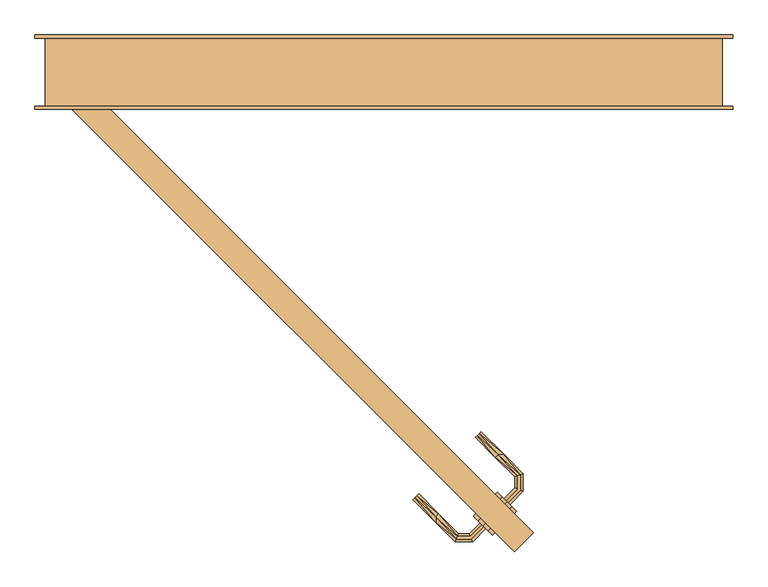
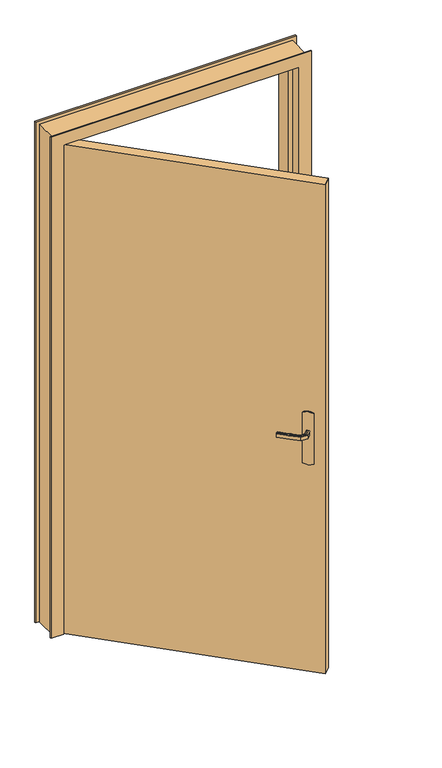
"""IFC4 building model written with IfcOpenShell, lengths in millimetres: door geometry, PP ISOTHERME  (0.93m x 2.04m)."""

from ifc_helpers import new_model, si_unit, frame, origin, origin_with_axes, place, context, project, spatial, polyline, outline, extrude, faceted_brep, source, transform, mapped, element, save


def door_0ba38a8d(model_context):
    return source(origin(), model_context, "Body", "SolidModel", [
        extrude(outline(polyline([(0.0, 0.0), (206.2910989, 39.2935427), (212.0216555, 30.5643917), (215.2976776, 20.6495021), (215.8959097, 10.2245573), (213.7755833, 1e-07), (7.4844843, -39.2935426), (1.7539277, -30.5643917), (-1.5220943, -20.6495021), (-2.1203265, -10.2245572), (0.0, 0.0)])), frame((762.6093065, -601.040764, 870.0), z_axis=(0.7071067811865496, 0.7071067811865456, 0.0), x_axis=(-0.1323082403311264, 0.13230824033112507, 0.9823385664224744)), (0.0, 0.0, 1.0), 5.0),
        faceted_brep([(750.5706024, -581.9309921, 992.2195592), (753.4348072, -584.7951969, 992.2195592), (756.2453455, -587.6057352, 993.0), (756.2453455, -587.6057352, 1007.0), (753.4348072, -584.7951969, 1007.7804408), (750.5706024, -581.9309921, 1007.7804408), (747.7600641, -579.1204538, 1007.0), (747.7600641, -579.1204538, 993.0), (763.6595047, -563.2210132, 1007.0), (763.6595047, -563.2210132, 993.0), (767.634206, -564.8673884, 1007.7804408), (771.6848033, -566.5452008, 1007.7804408), (771.6848033, -543.654185, 1007.7804408), (767.634206, -545.3319973, 1007.7804408), (775.6595047, -568.191576, 1007.0), (775.6595047, -568.191576, 993.0), (771.6848033, -566.5452008, 992.2195592), (767.634206, -564.8673884, 992.2195592), (767.634206, -545.3319973, 992.2195592), (771.6848033, -543.654185, 992.2195592), (763.6595047, -546.9783725, 1007.0), (763.6595047, -546.9783725, 993.0), (775.6595047, -542.0078098, 1007.0), (775.6595047, -542.0078098, 993.0), (708.0909519, -485.7887432, 1007.7804408), (710.9551568, -482.9245384, 1007.7804408), (713.765695, -480.1140001, 1007.0), (713.765695, -480.1140001, 993.0), (710.9551568, -482.9245384, 992.2195592), (708.0909519, -485.7887432, 992.2195592), (705.2804137, -488.5992815, 993.0), (705.2804137, -488.5992815, 1007.0), (734.4699592, -517.788827, 1007.0), (734.4699676, -517.7888354, 993.0), (739.2946814, -514.1282679, 1007.8786868), (747.4243864, -513.7726915, 1007.0), (747.4243875, -513.7726926, 993.0), (739.2946812, -514.1282677, 992.1213132)], [[[0, 1, 2, 3, 4, 5, 6, 7]], [[8, 9, 7, 6]], [[5, 10, 8, 6]], [[5, 4, 11, 12, 13, 10]], [[3, 14, 11, 4]], [[14, 3, 2, 15]], [[2, 1, 16, 15]], [[1, 0, 17, 18, 19, 16]], [[0, 7, 9, 17]], [[20, 21, 9, 8]], [[8, 10, 13, 20]], [[14, 22, 12, 11]], [[23, 22, 14, 15]], [[15, 16, 19, 23]], [[17, 9, 21, 18]], [[24, 25, 26, 27, 28, 29, 30, 31]], [[21, 20, 32, 31, 30, 33]], [[34, 24, 32]], [[25, 34, 35]], [[13, 32, 20]], [[24, 31, 32]], [[25, 35, 26]], [[35, 12, 22]], [[34, 12, 35]], [[34, 13, 12]], [[34, 32, 13]], [[24, 34, 25]], [[22, 23, 36, 27, 26, 35]], [[37, 28, 36]], [[36, 28, 27]], [[36, 23, 19]], [[18, 33, 37]], [[33, 18, 21]], [[30, 29, 33]], [[37, 29, 28]], [[37, 33, 29]], [[37, 36, 19]], [[18, 37, 19]]]),
        faceted_brep([(715.2152633, -617.2863311, 1007.7804408), (718.0794681, -620.150536, 1007.7804408), (720.8900064, -622.9610742, 1007.0), (720.8900064, -622.9610742, 993.0), (718.0794681, -620.150536, 992.2195592), (715.2152633, -617.2863311, 992.2195592), (712.404725, -614.4757929, 993.0), (712.404725, -614.4757929, 1007.0), (699.6914565, -638.5385476, 1007.7804408), (701.3378317, -642.513249, 1007.0), (698.0136441, -634.4879503, 1007.7804408), (678.6727196, -634.4879503, 1007.7804408), (676.9949073, -638.5385476, 1007.7804408), (696.3672689, -630.513249, 1007.0), (696.3672689, -630.513249, 993.0), (698.0136441, -634.4879503, 992.2195592), (699.6914565, -638.5385476, 992.2195592), (676.9949073, -638.5385476, 992.2195592), (678.6727196, -634.4879503, 992.2195592), (701.3378317, -642.513249, 993.0), (675.3485321, -642.513249, 1007.0), (680.3190948, -630.513249, 1007.0), (680.3190948, -630.513249, 993.0), (675.3485321, -642.513249, 993.0), (613.3766822, -580.5413991, 1007.0), (616.1872204, -577.7308608, 1007.7804408), (619.0514253, -574.866656, 1007.7804408), (621.8619635, -572.0561177, 1007.0), (621.8619635, -572.0561177, 993.0), (619.0514253, -574.866656, 992.2195592), (616.1872204, -577.7308608, 992.2195592), (613.3766822, -580.5413991, 993.0), (647.42997, -606.1094055, 1007.8786868), (647.1134138, -614.2781307, 1007.0), (651.0905292, -601.2846833, 1007.0), (651.0905292, -601.2846833, 993.0), (647.4299701, -606.1094057, 992.1213132), (647.1134192, -614.2781361, 993.0)], [[[0, 1, 2, 3, 4, 5, 6, 7]], [[2, 1, 8, 9]], [[1, 0, 10, 11, 12, 8]], [[0, 7, 13, 10]], [[14, 13, 7, 6]], [[5, 15, 14, 6]], [[5, 4, 16, 17, 18, 15]], [[3, 19, 16, 4]], [[9, 19, 3, 2]], [[9, 8, 12, 20]], [[10, 13, 21, 11]], [[22, 21, 13, 14]], [[14, 15, 18, 22]], [[16, 19, 23, 17]], [[20, 23, 19, 9]], [[24, 25, 26, 27, 28, 29, 30, 31]], [[32, 25, 33]], [[33, 25, 24]], [[33, 20, 12]], [[11, 34, 32]], [[34, 11, 21]], [[27, 26, 34]], [[32, 26, 25]], [[32, 34, 26]], [[32, 33, 12]], [[11, 32, 12]], [[21, 22, 35, 28, 27, 34]], [[36, 29, 35]], [[30, 36, 37]], [[18, 35, 22]], [[29, 28, 35]], [[30, 37, 31]], [[37, 17, 23]], [[36, 17, 37]], [[36, 18, 17]], [[36, 35, 18]], [[29, 36, 30]], [[23, 20, 33, 24, 31, 37]]]),
        extrude(outline(polyline([(790.8935778, -629.3250353), (762.6093065, -657.6093065), (105.0, 0.0), (133.2842712, 28.2842712), (790.8935778, -629.3250353)])), origin_with_axes(), (0.0, 0.0, 1.0), 2040.0),
        extrude(outline(polyline([(0.0, 0.0), (206.2910989, 39.2935427), (212.0216555, 30.5643916), (215.2976776, 20.649502), (215.8959097, 10.2245573), (213.7755833, -1e-07), (7.4844843, -39.2935427), (1.7539277, -30.5643917), (-1.5220943, -20.6495022), (-2.1203264, -10.2245574), (0.0, 0.0)])), frame((730.7895014, -632.8605692, 870.0), z_axis=(0.7071067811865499, 0.7071067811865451, 0.0), x_axis=(-0.13230824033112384, 0.13230824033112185, 0.9823385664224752)), (0.0, 0.0, 1.0), 5.0),
        faceted_brep([(1070.0, 100.0, 0.0), (1070.0, 0.0, 0.0), (1085.0, 0.0, 0.0), (1085.0, -5.0, 0.0), (1035.0, -5.0, 0.0), (1035.0, 40.0, 0.0), (1020.0, 40.0, 0.0), (1020.0, 105.0, 0.0), (1085.0, 105.0, 0.0), (1085.0, 100.0, 0.0), (1085.0, 100.0, 2090.0), (55.0, 100.0, 2090.0), (55.0, 100.0, 0.0), (70.0, 100.0, 0.0), (70.0, 100.0, 2075.0), (1070.0, 100.0, 2075.0), (1085.0, 105.0, 2090.0), (1020.0, 105.0, 2025.0), (120.0, 105.0, 2025.0), (120.0, 105.0, 0.0), (55.0, 105.0, 0.0), (55.0, 105.0, 2090.0), (1020.0, 40.0, 2025.0), (1035.0, 40.0, 2040.0), (105.0, 40.0, 2040.0), (105.0, 40.0, 0.0), (120.0, 40.0, 0.0), (120.0, 40.0, 2025.0), (1035.0, -5.0, 2040.0), (1085.0, -5.0, 2090.0), (55.0, -5.0, 2090.0), (55.0, -5.0, 0.0), (105.0, -5.0, 0.0), (105.0, -5.0, 2040.0), (1085.0, 0.0, 2090.0), (1070.0, 0.0, 2075.0), (70.0, 0.0, 2075.0), (70.0, 0.0, 0.0), (55.0, 0.0, 0.0), (55.0, 0.0, 2090.0)], [[[0, 1, 2, 3, 4, 5, 6, 7, 8, 9]], [[9, 10, 11, 12, 13, 14, 15, 0]], [[8, 16, 10, 9]], [[7, 17, 18, 19, 20, 21, 16, 8]], [[7, 6, 22, 17]], [[5, 23, 24, 25, 26, 27, 22, 6]], [[5, 4, 28, 23]], [[3, 29, 30, 31, 32, 33, 28, 4]], [[2, 34, 29, 3]], [[1, 35, 36, 37, 38, 39, 34, 2]], [[0, 15, 35, 1]], [[14, 13, 37, 36]], [[13, 12, 20, 19, 26, 25, 32, 31, 38, 37]], [[21, 20, 12, 11]], [[27, 26, 19, 18]], [[33, 32, 25, 24]], [[39, 38, 31, 30]], [[16, 21, 11, 10]], [[22, 27, 18, 17]], [[28, 33, 24, 23]], [[34, 39, 30, 29]], [[15, 14, 36, 35]]]),
    ])


if __name__ == "__main__":
    model = new_model("IFC4")
    model_context = context("Model", 3, world=origin())
    ifc_project = project(units=[si_unit("LENGTHUNIT", "METRE", prefix="MILLI")], contexts=[model_context])
    site = spatial("IfcSite", under=ifc_project)
    building = spatial("IfcBuilding", under=site)
    placement = place(None, origin())
    door_shape = door_0ba38a8d(model_context)
    element("IfcDoor", 1, ObjectType="PP ISOTHERME  (0.93m x 2.04m)", at=placement, inside=building, context=model_context, shape_type="MappedRepresentation", body=[
        mapped(door_shape, transform((0.0, 0.0, 0.0), x_axis=(1.0, 0.0, 0.0), y_axis=(0.0, 1.0, 0.0), z_axis=(0.0, 0.0, 1.0))),
    ])
    save(model, "model.ifc")
